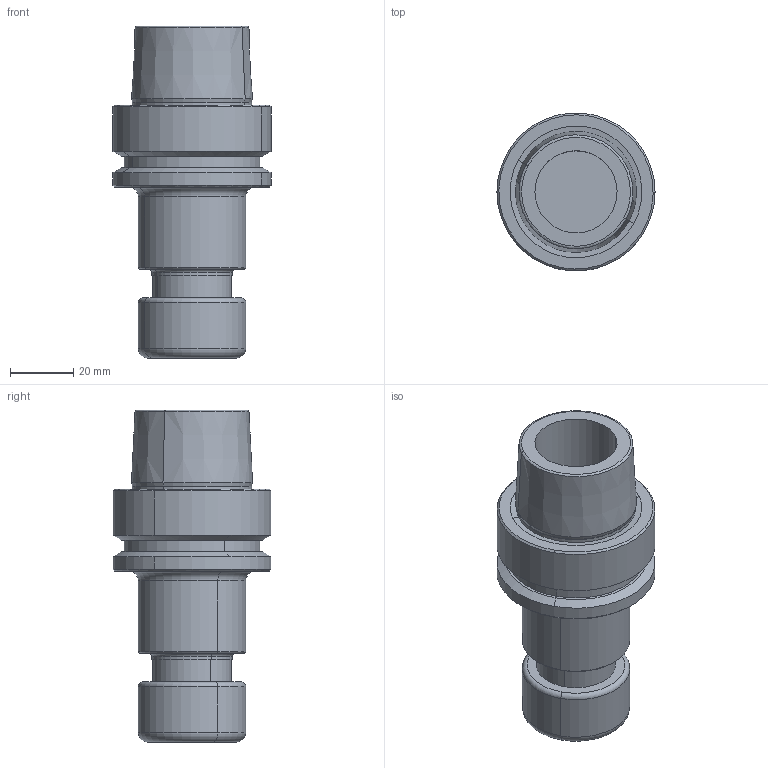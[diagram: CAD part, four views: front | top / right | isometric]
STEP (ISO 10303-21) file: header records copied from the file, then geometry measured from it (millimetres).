
FILE_DESCRIPTION(('CATIA V5 STEP','CAx-IF Rec.Pracs.--- Model Styling and Organization---1.2---2011-12-15'),'2;1');
FILE_NAME('\\nas01\drv1\utils\eitdev\rte\eit\transmagicconvert\db\out\635935377129608915\4504604-D-L-B.stp','2016-03-14T05:35:27+00:00',('none'),('none'),'CATIA Version 5 Release 21 SP 5 (IN-10)','CATIA V5 STEP AP214','none');
FILE_SCHEMA(('AUTOMOTIVE_DESIGN { 1 0 10303 214 1 1 1 1 }'));
Length unit declared in the file: millimetre
Products named in the file (1): HSK E 50 ER20X 80
Bounding box: 50 x 49.83 x 105 mm (x, y, z)
Volume: 93167.1 mm3; surface area: 22181.7 mm2
Topology: 1 solids, 1 shells, 68 faces, 144 edges, 85 vertices
Faces by surface type: cylinder 24, cone 20, torus 14, plane 10
Entity records: 1620 total; most frequent: ORIENTED_EDGE 284, CARTESIAN_POINT 269, DIRECTION 224, EDGE_CURVE 142, AXIS2_PLACEMENT_3D 140, CIRCLE 98, VERTEX_POINT 85, EDGE_LOOP 77
